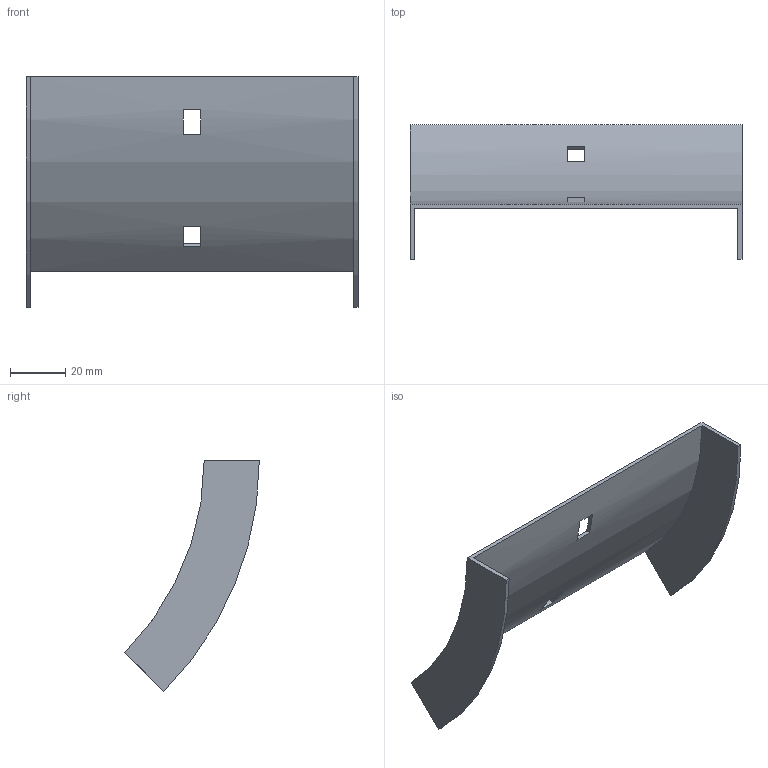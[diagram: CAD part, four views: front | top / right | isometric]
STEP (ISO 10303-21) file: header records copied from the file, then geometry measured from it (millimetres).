
FILE_DESCRIPTION (( 'STEP AP214' ), '1' );
FILE_NAME ('31N1R117.step', '2025-02-21T09:22:59', ( '' ), ( '' ), 'SwSTEP 2.0', 'SolidWorks 2023', '' );
FILE_SCHEMA (( 'AUTOMOTIVE_DESIGN' ));
Length unit declared in the file: millimetre
Products named in the file (1): 31N1R117
Bounding box: 120.5 x 48.85 x 83.79 mm (x, y, z)
Volume: 18673.7 mm3; surface area: 25742.6 mm2
Topology: 1 solids, 1 shells, 18 faces, 48 edges, 32 vertices
Faces by surface type: plane 14, cylinder 4
Entity records: 599 total; most frequent: DIRECTION 102, CARTESIAN_POINT 99, ORIENTED_EDGE 96, EDGE_CURVE 48, AXIS2_PLACEMENT_3D 35, LINE 32, VERTEX_POINT 32, VECTOR 32
